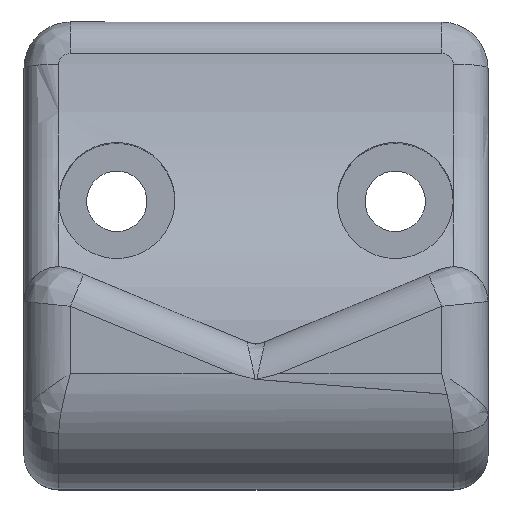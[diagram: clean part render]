
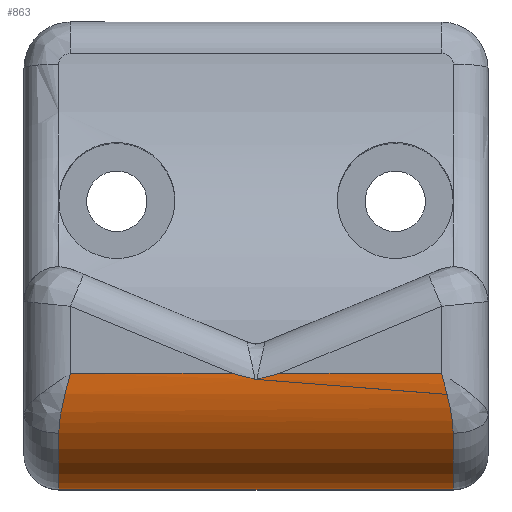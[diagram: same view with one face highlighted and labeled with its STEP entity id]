
A CAD part, top view. The second image highlights one B-rep face of the part: STEP entity #863.
In plain terms, the highlighted cylindrical face has radius 5 mm (diameter 10 mm), a partial arc.
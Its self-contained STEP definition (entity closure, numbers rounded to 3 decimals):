
#60=B_SPLINE_CURVE_WITH_KNOTS('',3,(#1501,#1502,#1503,#1504,#1505,#1506,
#1507,#1508,#1509,#1510,#1511,#1512,#1513),.UNSPECIFIED.,.F.,.F.,(4,3,3,
3,4),(0.,0.002,0.004,0.006,0.007),
 .UNSPECIFIED.);
#71=B_SPLINE_CURVE_WITH_KNOTS('',3,(#1729,#1730,#1731,#1732),
 .UNSPECIFIED.,.F.,.F.,(4,4),(2.772,2.872),
 .UNSPECIFIED.);
#73=B_SPLINE_CURVE_WITH_KNOTS('',3,(#1804,#1805,#1806,#1807,#1808,#1809,
#1810,#1811),.UNSPECIFIED.,.F.,.F.,(4,2,1,1,4),(-0.196,-0.195,
-0.117,-0.078,0.),.UNSPECIFIED.);
#74=B_SPLINE_CURVE_WITH_KNOTS('',3,(#1818,#1819,#1820,#1821,#1822,#1823,
#1824,#1825),.UNSPECIFIED.,.F.,.F.,(4,1,1,2,4),(-0.195,-0.117,
-0.078,0.,0.001),.UNSPECIFIED.);
#75=B_SPLINE_CURVE_WITH_KNOTS('',3,(#1828,#1829,#1830,#1831),
 .UNSPECIFIED.,.F.,.F.,(4,4),(0.,0.101),.UNSPECIFIED.);
#86=CYLINDRICAL_SURFACE('',#965,5.);
#124=FACE_OUTER_BOUND('',#180,.T.);
#180=EDGE_LOOP('',(#688,#689,#690,#691,#692,#693,#694,#695,#696,#697));
#249=CIRCLE('',#964,5.);
#250=CIRCLE('',#966,5.);
#291=LINE('',#1814,#333);
#292=LINE('',#1827,#334);
#293=LINE('',#1832,#335);
#333=VECTOR('',#1152,10.);
#334=VECTOR('',#1155,10.);
#335=VECTOR('',#1156,10.);
#387=VERTEX_POINT('',#1499);
#388=VERTEX_POINT('',#1500);
#406=VERTEX_POINT('',#1727);
#411=VERTEX_POINT('',#1748);
#412=VERTEX_POINT('',#1752);
#413=VERTEX_POINT('',#1795);
#414=VERTEX_POINT('',#1813);
#415=VERTEX_POINT('',#1815);
#416=VERTEX_POINT('',#1817);
#417=VERTEX_POINT('',#1826);
#471=EDGE_CURVE('',#387,#388,#60,.T.);
#503=EDGE_CURVE('',#388,#406,#71,.T.);
#514=EDGE_CURVE('',#412,#411,#249,.T.);
#516=EDGE_CURVE('',#413,#412,#73,.T.);
#517=EDGE_CURVE('',#411,#414,#291,.T.);
#518=EDGE_CURVE('',#414,#415,#250,.T.);
#519=EDGE_CURVE('',#415,#416,#74,.T.);
#520=EDGE_CURVE('',#416,#417,#292,.F.);
#521=EDGE_CURVE('',#417,#387,#75,.T.);
#522=EDGE_CURVE('',#406,#413,#293,.F.);
#688=ORIENTED_EDGE('',*,*,#514,.T.);
#689=ORIENTED_EDGE('',*,*,#517,.T.);
#690=ORIENTED_EDGE('',*,*,#518,.T.);
#691=ORIENTED_EDGE('',*,*,#519,.T.);
#692=ORIENTED_EDGE('',*,*,#520,.T.);
#693=ORIENTED_EDGE('',*,*,#521,.T.);
#694=ORIENTED_EDGE('',*,*,#471,.T.);
#695=ORIENTED_EDGE('',*,*,#503,.T.);
#696=ORIENTED_EDGE('',*,*,#522,.T.);
#697=ORIENTED_EDGE('',*,*,#516,.T.);
#863=ADVANCED_FACE('',(#124),#86,.T.);
#964=AXIS2_PLACEMENT_3D('',#1754,#1148,#1149);
#965=AXIS2_PLACEMENT_3D('',#1812,#1150,#1151);
#966=AXIS2_PLACEMENT_3D('',#1816,#1153,#1154);
#1148=DIRECTION('center_axis',(1.,0.,0.));
#1149=DIRECTION('ref_axis',(0.,-0.949,0.316));
#1150=DIRECTION('center_axis',(1.,0.,0.));
#1151=DIRECTION('ref_axis',(0.,-1.,0.));
#1152=DIRECTION('',(1.,0.,0.));
#1153=DIRECTION('center_axis',(-1.,0.,0.));
#1154=DIRECTION('ref_axis',(0.,-0.949,0.316));
#1155=DIRECTION('',(1.,0.,0.));
#1156=DIRECTION('',(1.,0.,0.));
#1499=CARTESIAN_POINT('',(0.036,-15.457,106.093));
#1500=CARTESIAN_POINT('',(-0.036,-15.457,106.093));
#1501=CARTESIAN_POINT('Ctrl Pts',(0.036,-15.457,
106.093));
#1502=CARTESIAN_POINT('Ctrl Pts',(0.029,-15.458,
106.093));
#1503=CARTESIAN_POINT('Ctrl Pts',(0.022,-15.46,
106.093));
#1504=CARTESIAN_POINT('Ctrl Pts',(0.015,-15.46,
106.093));
#1505=CARTESIAN_POINT('Ctrl Pts',(0.01,-15.461,
106.093));
#1506=CARTESIAN_POINT('Ctrl Pts',(0.005,-15.461,
106.093));
#1507=CARTESIAN_POINT('Ctrl Pts',(0.,-15.461,
106.093));
#1508=CARTESIAN_POINT('Ctrl Pts',(-0.007,-15.461,
106.093));
#1509=CARTESIAN_POINT('Ctrl Pts',(-0.014,-15.461,
106.093));
#1510=CARTESIAN_POINT('Ctrl Pts',(-0.021,-15.46,
106.093));
#1511=CARTESIAN_POINT('Ctrl Pts',(-0.026,-15.459,
106.093));
#1512=CARTESIAN_POINT('Ctrl Pts',(-0.031,-15.458,
106.093));
#1513=CARTESIAN_POINT('Ctrl Pts',(-0.036,-15.457,
106.093));
#1727=CARTESIAN_POINT('',(-1.023,-15.2,106.1));
#1729=CARTESIAN_POINT('Ctrl Pts',(-0.036,-15.457,
106.093));
#1730=CARTESIAN_POINT('Ctrl Pts',(-0.369,-15.37,106.098));
#1731=CARTESIAN_POINT('Ctrl Pts',(-0.698,-15.284,
106.1));
#1732=CARTESIAN_POINT('Ctrl Pts',(-1.023,-15.2,106.1));
#1748=CARTESIAN_POINT('',(-8.5,-20.2,101.1));
#1752=CARTESIAN_POINT('',(-8.5,-17.775,105.386));
#1754=CARTESIAN_POINT('Origin',(-8.5,-15.2,101.1));
#1795=CARTESIAN_POINT('',(-8.,-15.2,106.1));
#1804=CARTESIAN_POINT('Ctrl Pts',(-8.,-15.2,106.1));
#1805=CARTESIAN_POINT('Ctrl Pts',(-8.001,-15.204,106.1));
#1806=CARTESIAN_POINT('Ctrl Pts',(-8.002,-15.207,106.1));
#1807=CARTESIAN_POINT('Ctrl Pts',(-8.095,-15.559,106.099));
#1808=CARTESIAN_POINT('Ctrl Pts',(-8.236,-16.088,106.043));
#1809=CARTESIAN_POINT('Ctrl Pts',(-8.426,-16.949,105.808));
#1810=CARTESIAN_POINT('Ctrl Pts',(-8.5,-17.457,105.577));
#1811=CARTESIAN_POINT('Ctrl Pts',(-8.5,-17.775,105.386));
#1812=CARTESIAN_POINT('Origin',(0.,-15.2,101.1));
#1813=CARTESIAN_POINT('',(8.5,-20.2,101.1));
#1814=CARTESIAN_POINT('',(0.,-20.2,101.1));
#1815=CARTESIAN_POINT('',(8.5,-17.775,105.386));
#1816=CARTESIAN_POINT('Origin',(8.5,-15.2,101.1));
#1817=CARTESIAN_POINT('',(8.,-15.2,106.1));
#1818=CARTESIAN_POINT('Ctrl Pts',(8.5,-17.775,105.386));
#1819=CARTESIAN_POINT('Ctrl Pts',(8.5,-17.457,105.577));
#1820=CARTESIAN_POINT('Ctrl Pts',(8.425,-16.949,105.808));
#1821=CARTESIAN_POINT('Ctrl Pts',(8.236,-16.089,106.042));
#1822=CARTESIAN_POINT('Ctrl Pts',(8.095,-15.559,106.099));
#1823=CARTESIAN_POINT('Ctrl Pts',(8.002,-15.207,106.1));
#1824=CARTESIAN_POINT('Ctrl Pts',(8.001,-15.204,106.1));
#1825=CARTESIAN_POINT('Ctrl Pts',(8.,-15.2,106.1));
#1826=CARTESIAN_POINT('',(1.023,-15.2,106.1));
#1827=CARTESIAN_POINT('',(0.,-15.2,106.1));
#1828=CARTESIAN_POINT('Ctrl Pts',(1.023,-15.2,106.1));
#1829=CARTESIAN_POINT('Ctrl Pts',(0.698,-15.284,106.1));
#1830=CARTESIAN_POINT('Ctrl Pts',(0.369,-15.37,106.098));
#1831=CARTESIAN_POINT('Ctrl Pts',(0.036,-15.457,
106.093));
#1832=CARTESIAN_POINT('',(0.,-15.2,106.1));
